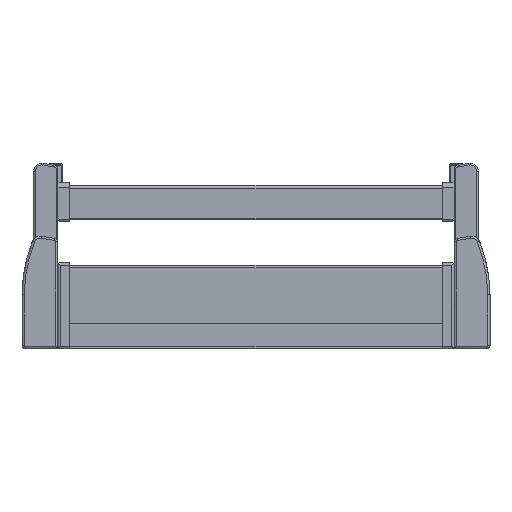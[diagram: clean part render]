
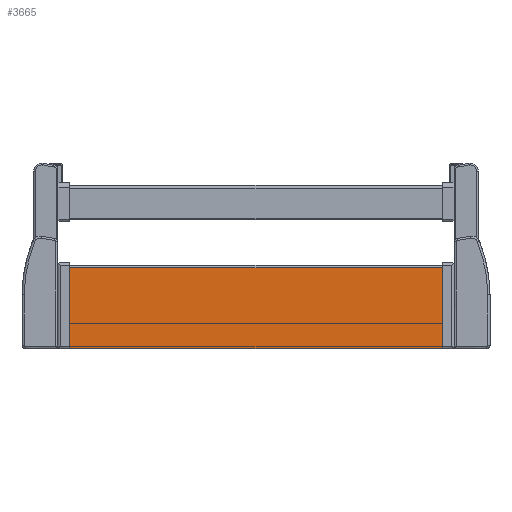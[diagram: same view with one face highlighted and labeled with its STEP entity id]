
A CAD part, top view. The second image highlights one B-rep face of the part: STEP entity #3665.
In plain terms, the highlighted planar face has unit normal (0, 0, 1).
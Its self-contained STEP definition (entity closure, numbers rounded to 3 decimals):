
#1441 = DIRECTION ( 'NONE',  ( 0., 1., 0. ) ) ;
#1444 = DIRECTION ( 'NONE',  ( -1., 0., 0. ) ) ;
#1445 = VECTOR ( 'NONE', #1444, 1000. ) ;
#1446 = CARTESIAN_POINT ( 'NONE',  ( 234.556, -92.5, 1.4 ) ) ;
#1455 = LINE ( 'NONE', #1446, #1445 ) ;
#1456 = CARTESIAN_POINT ( 'NONE',  ( -160.8, -92.5, 1.4 ) ) ;
#1457 = FACE_OUTER_BOUND ( 'NONE', #3666, .T. ) ;
#1462 = DIRECTION ( 'NONE',  ( 0., 0., -1. ) ) ;
#1463 = CARTESIAN_POINT ( 'NONE',  ( 234.556, -92.5, 1.4 ) ) ;
#1464 = AXIS2_PLACEMENT_3D ( 'NONE', #1463, #1462, #1441 ) ;
#1467 = PLANE ( 'NONE',  #1464 ) ;
#1476 = DIRECTION ( 'NONE',  ( -1., 0., 0. ) ) ;
#1477 = VECTOR ( 'NONE', #1476, 1000. ) ;
#1478 = CARTESIAN_POINT ( 'NONE',  ( 234.556, -23., 1.4 ) ) ;
#1479 = LINE ( 'NONE', #1478, #1477 ) ;
#1544 = CARTESIAN_POINT ( 'NONE',  ( -160.8, -23., 1.4 ) ) ;
#2008 = CARTESIAN_POINT ( 'NONE',  ( 160.8, -92.5, 1.4 ) ) ;
#2016 = CARTESIAN_POINT ( 'NONE',  ( 160.8, -23., 1.4 ) ) ;
#2203 = DIRECTION ( 'NONE',  ( 0., 1., 0. ) ) ;
#2204 = VECTOR ( 'NONE', #2203, 1000. ) ;
#2205 = CARTESIAN_POINT ( 'NONE',  ( -160.8, -92.5, 1.4 ) ) ;
#2206 = LINE ( 'NONE', #2205, #2204 ) ;
#3224 = EDGE_CURVE ( 'NONE', #3328, #3327, #6909, .T. ) ;
#3327 = VERTEX_POINT ( 'NONE', #2016 ) ;
#3328 = VERTEX_POINT ( 'NONE', #2008 ) ;
#3661 = EDGE_CURVE ( 'NONE', #3328, #3662, #1455, .T. ) ;
#3662 = VERTEX_POINT ( 'NONE', #1456 ) ;
#3665 = ADVANCED_FACE ( 'NONE', ( #1457 ), #1467, .F. ) ;
#3666 = EDGE_LOOP ( 'NONE', ( #3667, #3668, #3669, #3689 ) ) ;
#3667 = ORIENTED_EDGE ( 'NONE', *, *, #3661, .F. ) ;
#3668 = ORIENTED_EDGE ( 'NONE', *, *, #3224, .T. ) ;
#3669 = ORIENTED_EDGE ( 'NONE', *, *, #3670, .T. ) ;
#3670 = EDGE_CURVE ( 'NONE', #3327, #3671, #1479, .T. ) ;
#3671 = VERTEX_POINT ( 'NONE', #1544 ) ;
#3689 = ORIENTED_EDGE ( 'NONE', *, *, #3690, .F. ) ;
#3690 = EDGE_CURVE ( 'NONE', #3662, #3671, #2206, .T. ) ;
#6903 = DIRECTION ( 'NONE',  ( 0., 1., 0. ) ) ;
#6904 = VECTOR ( 'NONE', #6903, 1000. ) ;
#6905 = CARTESIAN_POINT ( 'NONE',  ( 160.8, -92.5, 1.4 ) ) ;
#6909 = LINE ( 'NONE', #6905, #6904 ) ;
